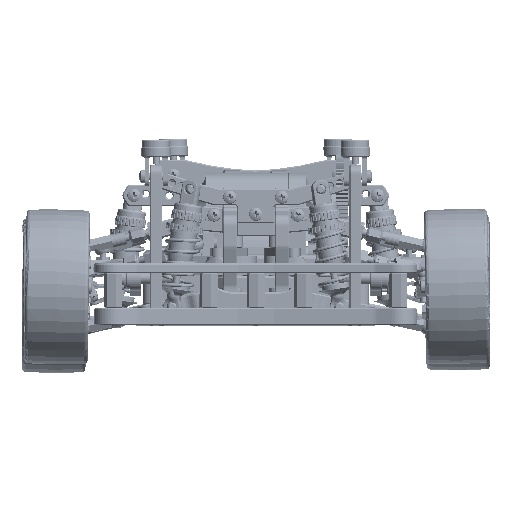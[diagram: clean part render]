
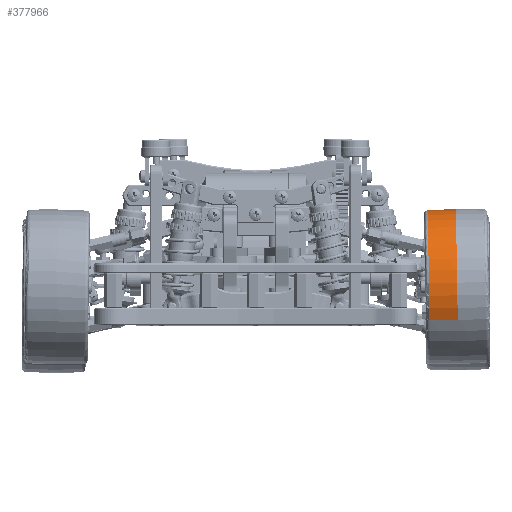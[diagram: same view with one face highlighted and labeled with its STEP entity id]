
A CAD part, top view. The second image highlights one B-rep face of the part: STEP entity #377966.
In plain terms, the highlighted free-form (B-spline) face has degree [3, 3] with [4, 4] control points.
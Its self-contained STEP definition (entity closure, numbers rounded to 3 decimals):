
#1929 = CARTESIAN_POINT ( 'NONE',  ( 76.732, 287.509, 4.004 ) ) ;
#3890 = CARTESIAN_POINT ( 'NONE',  ( 68.759, 287.119, 4.063 ) ) ;
#14993 = ORIENTED_EDGE ( 'NONE', *, *, #279092, .F. ) ;
#21356 = DIRECTION ( 'NONE',  ( 0.03, -0.81, -0.585 ) ) ;
#25735 = CARTESIAN_POINT ( 'NONE',  ( 66.719, 238.308, 44.643 ) ) ;
#27514 = ORIENTED_EDGE ( 'NONE', *, *, #145644, .T. ) ;
#33155 = B_SPLINE_CURVE_WITH_KNOTS ( 'NONE', 3,
 ( #91400, #153394, #395660, #121438 ),
 .UNSPECIFIED., .F., .F.,
 ( 4, 4 ),
 ( -1975.469, -1963.495 ),
 .UNSPECIFIED. ) ;
#33844 = CARTESIAN_POINT ( 'NONE',  ( 66.719, 238.308, 44.643 ) ) ;
#33923 = CARTESIAN_POINT ( 'NONE',  ( 76.118, 305.872, 42.494 ) ) ;
#55759 = CARTESIAN_POINT ( 'NONE',  ( 78.686, 238.596, 44.849 ) ) ;
#59978 = CARTESIAN_POINT ( 'NONE',  ( 74.698, 238.444, 44.858 ) ) ;
#67709 = DIRECTION ( 'NONE',  ( 0.999, 0.038, -0.002 ) ) ;
#71062 = EDGE_CURVE ( 'NONE', #371549, #188656, #33155, .T. ) ;
#76336 = EDGE_CURVE ( 'NONE', #294331, #131872, #134737, .T. ) ;
#76556 = CARTESIAN_POINT ( 'NONE',  ( 76.732, 287.509, 4.004 ) ) ;
#83343 = CARTESIAN_POINT ( 'NONE',  ( 65.934, 257.386, 18.203 ) ) ;
#91400 = CARTESIAN_POINT ( 'NONE',  ( 64.783, 286.795, 4.154 ) ) ;
#91968 = CARTESIAN_POINT ( 'NONE',  ( 68.148, 305.429, 42.441 ) ) ;
#114292 = ORIENTED_EDGE ( 'NONE', *, *, #71062, .F. ) ;
#115893 =( BOUNDED_SURFACE ( )  B_SPLINE_SURFACE ( 3, 3, ( 
 ( #308157, #148135, #33923, #1929 ),
 ( #59978, #124003, #278033, #178139 ),
 ( #122032, #244050, #91968, #3890 ),
 ( #125956, #246013, #368211, #366263 ) ),
 .UNSPECIFIED., .F., .F., .T. ) 
 B_SPLINE_SURFACE_WITH_KNOTS ( ( 4, 4 ),
 ( 4, 4 ),
 ( 1963.495, 1975.469 ),
 ( 0., 1. ),
 .UNSPECIFIED. ) 
 GEOMETRIC_REPRESENTATION_ITEM ( )  RATIONAL_B_SPLINE_SURFACE ( (
 ( 1., 0.498, 0.498, 1.),
 ( 1., 0.498, 0.498, 1.),
 ( 1., 0.498, 0.498, 1.),
 ( 1., 0.498, 0.498, 1.) ) ) 
 REPRESENTATION_ITEM ( '' )  SURFACE ( )  );
#117371 = DIRECTION ( 'NONE',  ( 0.999, 0.038, -0.002 ) ) ;
#121438 = CARTESIAN_POINT ( 'NONE',  ( 76.732, 287.509, 4.004 ) ) ;
#122032 = CARTESIAN_POINT ( 'NONE',  ( 70.707, 238.348, 44.789 ) ) ;
#123900 = CARTESIAN_POINT ( 'NONE',  ( 77.893, 257.841, 18.177 ) ) ;
#124003 = CARTESIAN_POINT ( 'NONE',  ( 73.438, 272.999, 69.827 ) ) ;
#125852 = DIRECTION ( 'NONE',  ( 0.03, -0.81, -0.585 ) ) ;
#125956 = CARTESIAN_POINT ( 'NONE',  ( 66.719, 238.308, 44.643 ) ) ;
#127008 = ORIENTED_EDGE ( 'NONE', *, *, #76336, .F. ) ;
#131872 = VERTEX_POINT ( 'NONE', #33844 ) ;
#134737 = B_SPLINE_CURVE_WITH_KNOTS ( 'NONE', 3,
 ( #55759, #177831, #299940, #25735 ),
 .UNSPECIFIED., .F., .F.,
 ( 4, 4 ),
 ( 1963.495, 1975.469 ),
 .UNSPECIFIED. ) ;
#138318 = CIRCLE ( 'NONE', #355840, 32.613 ) ;
#142558 = AXIS2_PLACEMENT_3D ( 'NONE', #123900, #67709, #125852 ) ;
#145644 = EDGE_CURVE ( 'NONE', #371549, #131872, #138318, .T. ) ;
#148135 = CARTESIAN_POINT ( 'NONE',  ( 77.426, 273.15, 69.819 ) ) ;
#153394 = CARTESIAN_POINT ( 'NONE',  ( 68.759, 287.119, 4.063 ) ) ;
#177831 = CARTESIAN_POINT ( 'NONE',  ( 74.698, 238.444, 44.858 ) ) ;
#178139 = CARTESIAN_POINT ( 'NONE',  ( 72.744, 287.357, 4.013 ) ) ;
#188656 = VERTEX_POINT ( 'NONE', #76556 ) ;
#244050 = CARTESIAN_POINT ( 'NONE',  ( 69.451, 272.802, 69.686 ) ) ;
#246013 = CARTESIAN_POINT ( 'NONE',  ( 65.47, 272.562, 69.395 ) ) ;
#278033 = CARTESIAN_POINT ( 'NONE',  ( 72.131, 305.72, 42.503 ) ) ;
#279092 = EDGE_CURVE ( 'NONE', #188656, #294331, #334319, .T. ) ;
#294331 = VERTEX_POINT ( 'NONE', #337356 ) ;
#299940 = CARTESIAN_POINT ( 'NONE',  ( 70.707, 238.348, 44.789 ) ) ;
#306176 = FACE_OUTER_BOUND ( 'NONE', #319170, .T. ) ;
#308157 = CARTESIAN_POINT ( 'NONE',  ( 78.686, 238.596, 44.849 ) ) ;
#319170 = EDGE_LOOP ( 'NONE', ( #127008, #14993, #114292, #27514 ) ) ;
#334319 = CIRCLE ( 'NONE', #142558, 32.9 ) ;
#337356 = CARTESIAN_POINT ( 'NONE',  ( 78.686, 238.596, 44.849 ) ) ;
#355840 = AXIS2_PLACEMENT_3D ( 'NONE', #83343, #117371, #21356 ) ;
#356739 = CARTESIAN_POINT ( 'NONE',  ( 64.783, 286.795, 4.154 ) ) ;
#366263 = CARTESIAN_POINT ( 'NONE',  ( 64.783, 286.795, 4.154 ) ) ;
#368211 = CARTESIAN_POINT ( 'NONE',  ( 64.175, 304.998, 42.309 ) ) ;
#371549 = VERTEX_POINT ( 'NONE', #356739 ) ;
#377966 = ADVANCED_FACE ( 'NONE', ( #306176 ), #115893, .F. ) ;
#395660 = CARTESIAN_POINT ( 'NONE',  ( 72.744, 287.357, 4.013 ) ) ;
